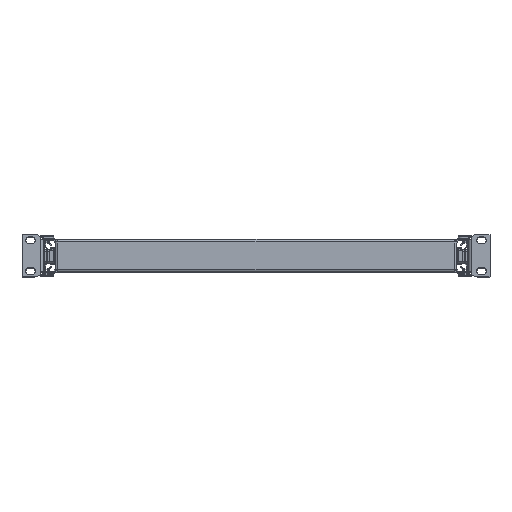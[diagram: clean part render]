
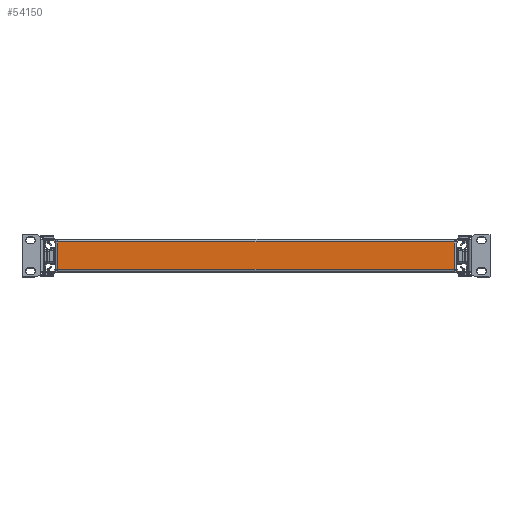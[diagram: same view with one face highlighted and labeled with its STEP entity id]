
A CAD part, top view. The second image highlights one B-rep face of the part: STEP entity #54150.
In plain terms, the highlighted planar face has unit normal (0, 0, 1).
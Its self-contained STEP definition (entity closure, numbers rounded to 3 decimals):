
#14 = LINE ( 'NONE', #4950, #15463 ) ;
#1859 = VECTOR ( 'NONE', #44403, 1000. ) ;
#4006 = FACE_OUTER_BOUND ( 'NONE', #5513, .T. ) ;
#4950 = CARTESIAN_POINT ( 'NONE',  ( -207.2, -1.5, 225. ) ) ;
#5152 = EDGE_CURVE ( 'NONE', #19681, #35228, #14, .T. ) ;
#5343 = PLANE ( 'NONE',  #46195 ) ;
#5513 = EDGE_LOOP ( 'NONE', ( #13923, #16489, #6984, #28892 ) ) ;
#5715 = DIRECTION ( 'NONE',  ( 0., 0., 1. ) ) ;
#6984 = ORIENTED_EDGE ( 'NONE', *, *, #32601, .T. ) ;
#9480 = DIRECTION ( 'NONE',  ( -1., 0., 0. ) ) ;
#11341 = CARTESIAN_POINT ( 'NONE',  ( 204.3, -29.7, 225. ) ) ;
#11401 = VERTEX_POINT ( 'NONE', #27032 ) ;
#12957 = CARTESIAN_POINT ( 'NONE',  ( -204.3, -29.7, 225. ) ) ;
#13228 = LINE ( 'NONE', #31365, #1859 ) ;
#13728 = VECTOR ( 'NONE', #41390, 1000. ) ;
#13923 = ORIENTED_EDGE ( 'NONE', *, *, #29619, .T. ) ;
#15463 = VECTOR ( 'NONE', #9480, 1000. ) ;
#16489 = ORIENTED_EDGE ( 'NONE', *, *, #19275, .T. ) ;
#19275 = EDGE_CURVE ( 'NONE', #11401, #54753, #24886, .T. ) ;
#19559 = CARTESIAN_POINT ( 'NONE',  ( -204.3, -1.5, 225. ) ) ;
#19681 = VERTEX_POINT ( 'NONE', #47587 ) ;
#24886 = LINE ( 'NONE', #12957, #30915 ) ;
#27032 = CARTESIAN_POINT ( 'NONE',  ( -204.3, -29.7, 225. ) ) ;
#28892 = ORIENTED_EDGE ( 'NONE', *, *, #5152, .T. ) ;
#29619 = EDGE_CURVE ( 'NONE', #35228, #11401, #49469, .T. ) ;
#30915 = VECTOR ( 'NONE', #43677, 1000. ) ;
#31365 = CARTESIAN_POINT ( 'NONE',  ( 204.3, -32.6, 225. ) ) ;
#32601 = EDGE_CURVE ( 'NONE', #54753, #19681, #13228, .T. ) ;
#35228 = VERTEX_POINT ( 'NONE', #40317 ) ;
#35249 = DIRECTION ( 'NONE',  ( 0., -1., 0. ) ) ;
#35624 = CARTESIAN_POINT ( 'NONE',  ( -207.2, 0., 225. ) ) ;
#40317 = CARTESIAN_POINT ( 'NONE',  ( -204.3, -1.5, 225. ) ) ;
#41390 = DIRECTION ( 'NONE',  ( 0., -1., 0. ) ) ;
#43677 = DIRECTION ( 'NONE',  ( 1., 0., 0. ) ) ;
#44403 = DIRECTION ( 'NONE',  ( 0., 1., 0. ) ) ;
#46195 = AXIS2_PLACEMENT_3D ( 'NONE', #35624, #5715, #35249 ) ;
#47587 = CARTESIAN_POINT ( 'NONE',  ( 204.3, -1.5, 225. ) ) ;
#49469 = LINE ( 'NONE', #19559, #13728 ) ;
#54150 = ADVANCED_FACE ( 'NONE', ( #4006 ), #5343, .T. ) ;
#54753 = VERTEX_POINT ( 'NONE', #11341 ) ;
